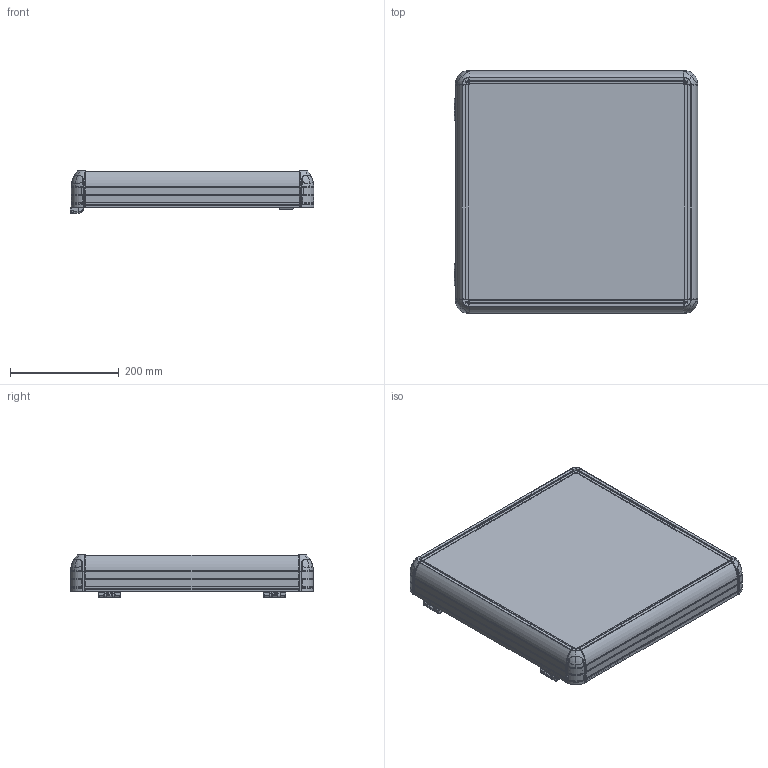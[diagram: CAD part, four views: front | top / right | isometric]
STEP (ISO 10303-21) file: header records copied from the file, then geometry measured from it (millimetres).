
FILE_DESCRIPTION (( 'STEP AP214' ), '1' );
FILE_NAME ('6000-0008.STEP', '2022-08-31T12:29:41', ( '' ), ( '' ), 'SwSTEP 2.0', 'SolidWorks 2022', '' );
FILE_SCHEMA (( 'AUTOMOTIVE_DESIGN' ));
Length unit declared in the file: millimetre
Products named in the file (5): ARKA_KAPAK_400X400; 6000-0008; 400X400; HPECO-060-001-395_395; ECO6000-0000
Assembly tree (10 placements, depth 2):
  6000-0008
    400X400
    ARKA_KAPAK_400X400
    HPECO-060-001-395_395  x4
    ECO6000-0000  x4
Bounding box: 449.03 x 447 x 79.15 mm (x, y, z)
Volume: 2512439.6 mm3; surface area: 1118549.6 mm2
Topology: 18 solids, 80 shells, 5033 faces, 13428 edges, 8326 vertices
Faces by surface type: plane 1981, cylinder 1292, bspline 932, cone 526, torus 256, sphere 46
Entity records: 136196 total; most frequent: CARTESIAN_POINT 32322, ORIENTED_EDGE 16228, DIRECTION 14364, EDGE_CURVE 8114, AXIS2_PLACEMENT_3D 5356, VERTEX_POINT 5029, LINE 3652, VECTOR 3652
